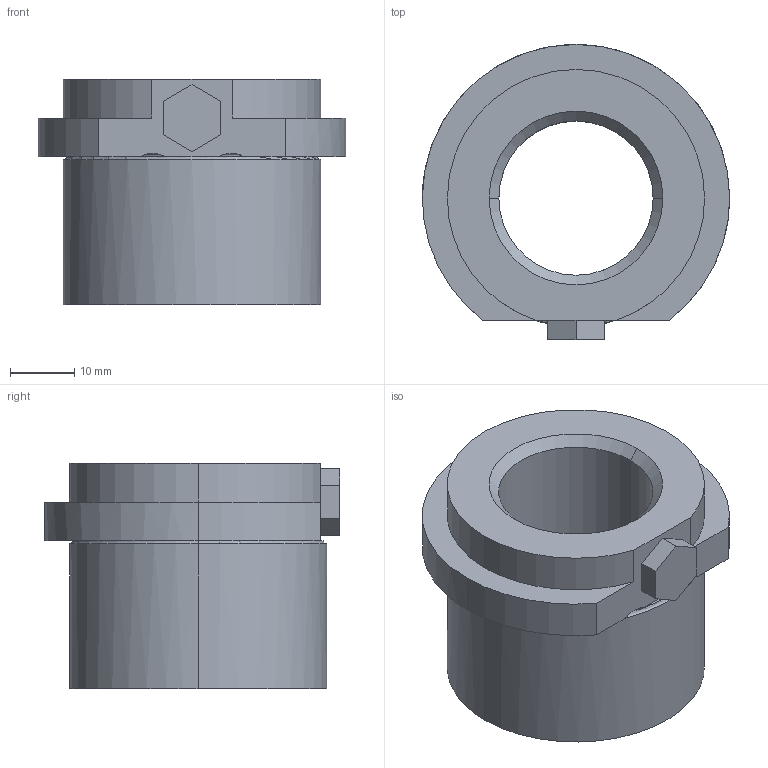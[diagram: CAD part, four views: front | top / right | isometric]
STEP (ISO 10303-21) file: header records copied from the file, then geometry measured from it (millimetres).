
FILE_DESCRIPTION(('CATIA V5 STEP Exchange'),'2;1');
FILE_NAME('C:\Users\Utente\Desktop\IO LAVORO\3D X SITO CF\X SITO\740\740-24.stp','2021-01-18T19:39:20+00:00',('none'),('none'),'CATIA Version 5 Release 20 GA (IN-10)','CATIA V5 STEP AP203','none');
FILE_SCHEMA(('CONFIG_CONTROL_DESIGN'));
Length unit declared in the file: millimetre
Products named in the file (1): 740-24
Assembly tree (1 placements, depth 2):
  740-24
    #58
Bounding box: 47.8 x 45.9 x 35 mm (x, y, z)
Volume: 30474.8 mm3; surface area: 9912.6 mm2
Topology: 1 solids, 1 shells, 35 faces, 89 edges, 58 vertices
Faces by surface type: plane 14, cylinder 12, torus 5, cone 4
Entity records: 1323 total; most frequent: CARTESIAN_POINT 456, ORIENTED_EDGE 178, DIRECTION 139, EDGE_CURVE 89, AXIS2_PLACEMENT_3D 63, VERTEX_POINT 58, VECTOR 42, LINE 42
